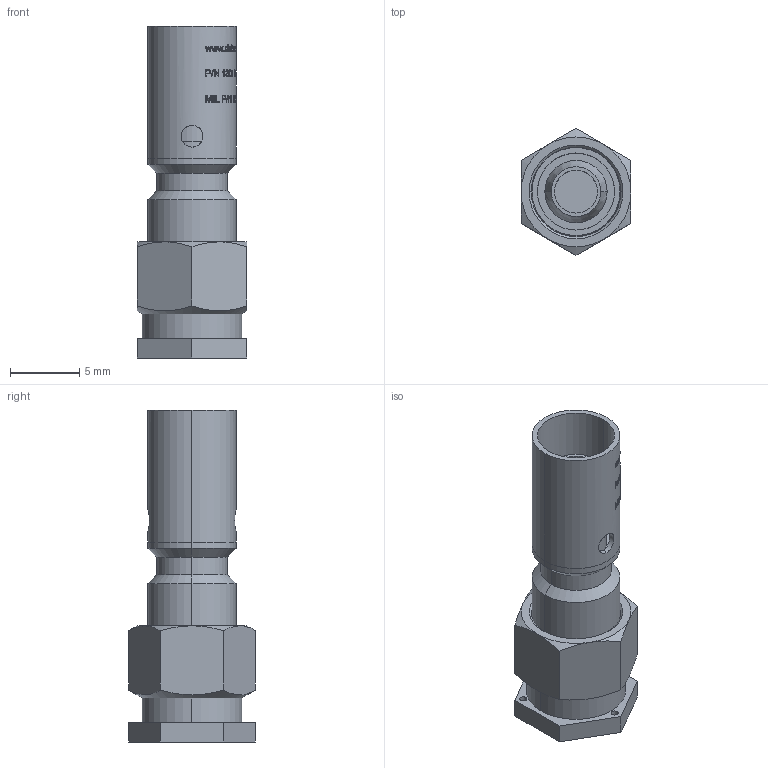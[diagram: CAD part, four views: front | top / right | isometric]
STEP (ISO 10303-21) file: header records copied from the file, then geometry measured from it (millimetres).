
FILE_DESCRIPTION (( 'STEP AP203' ), '1' );
FILE_NAME ('1301015K00E-000.STEP', '2023-10-18T14:46:03', ( '' ), ( '' ), 'SwSTEP 2.0', 'SolidWorks 2022', '' );
FILE_SCHEMA (( 'CONFIG_CONTROL_DESIGN' ));
Products named in the file (1): 1301015K00E-000
Bounding box: 7.92 x 9.15 x 23.95 mm (x, y, z)
Volume: 576 mm3; surface area: 1242.4 mm2
Topology: 2 solids, 2 shells, 791 faces, 2092 edges, 1386 vertices
Faces by surface type: bspline 402, plane 228, cylinder 136, cone 25
Entity records: 36309 total; most frequent: CARTESIAN_POINT 20147, ORIENTED_EDGE 4184, EDGE_CURVE 2092, DIRECTION 1855, VERTEX_POINT 1386, B_SPLINE_CURVE_WITH_KNOTS 1325, EDGE_LOOP 884, FACE_OUTER_BOUND 791
